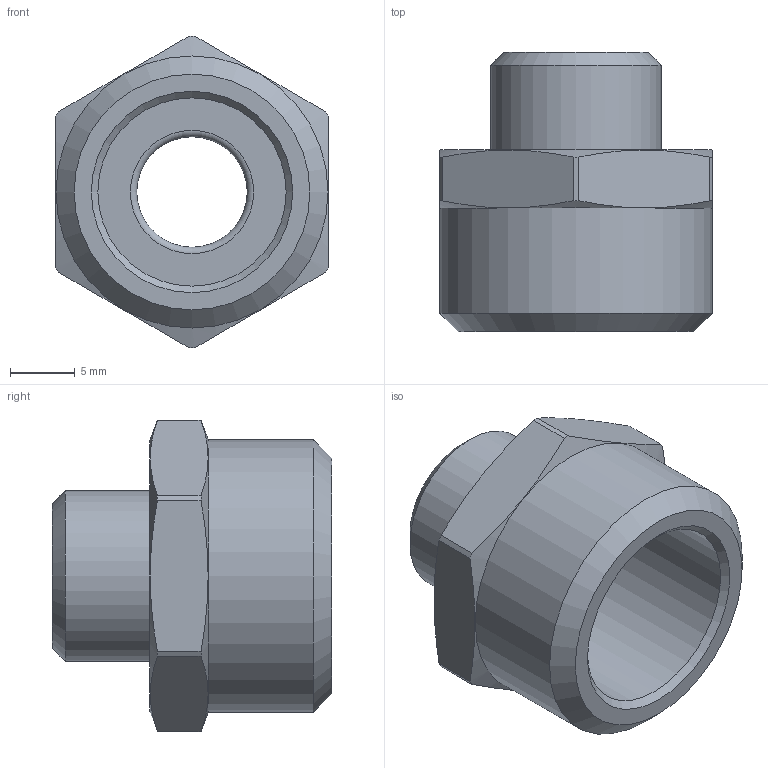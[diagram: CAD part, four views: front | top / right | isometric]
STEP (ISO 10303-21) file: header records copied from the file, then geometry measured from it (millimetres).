
FILE_DESCRIPTION(('STEP AP203'), '1');
FILE_NAME('覆.753137.027 - VTr.580.N.0402 侳瀅. G1-2xG1-4', '2024-07-03T10:10:46', ('Boss'), (''), 'C3D Converter', 'C3D Toolkit', '');
FILE_SCHEMA(('CONFIG_CONTROL_DESIGN'));
Length unit declared in the file: millimetre
Products named in the file (1): ВР.753137.027
Bounding box: 21 x 21.5 x 24 mm (x, y, z)
Volume: 3387.1 mm3; surface area: 2576 mm2
Topology: 1 solids, 1 shells, 27 faces, 63 edges, 40 vertices
Faces by surface type: cylinder 10, plane 10, cone 6, torus 1
Full cylindrical faces by diameter (mm): 8.5 x1, 13.157 x1, 14.5 x1, 20.955 x1
Entity records: 1200 total; most frequent: CARTESIAN_POINT 593, DIRECTION 120, ORIENTED_EDGE 104, AXIS2_PLACEMENT_3D 54, EDGE_CURVE 52, EDGE_LOOP 42, VERTEX_POINT 40, ADVANCED_FACE 27
